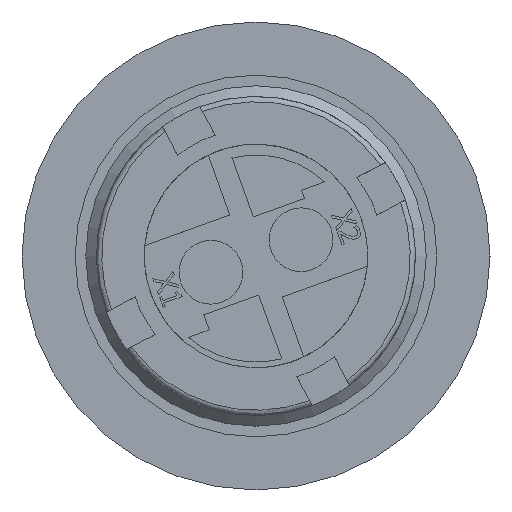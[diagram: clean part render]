
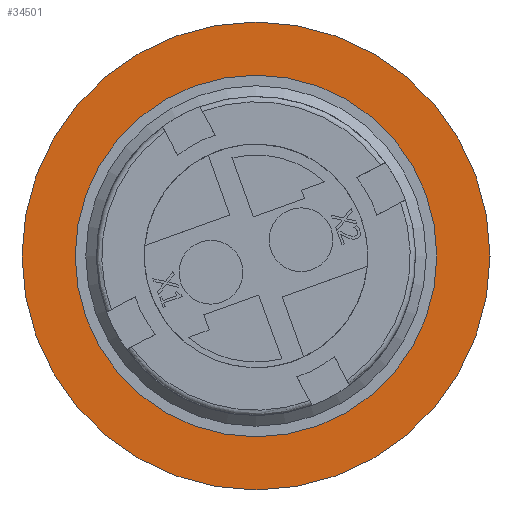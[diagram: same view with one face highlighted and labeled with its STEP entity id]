
A CAD part, front view. The second image highlights one B-rep face of the part: STEP entity #34501.
In plain terms, the highlighted planar face has unit normal (0, -1, 0).
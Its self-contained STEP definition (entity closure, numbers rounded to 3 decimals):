
#34438=CARTESIAN_POINT('',(17.,22.265,0.));
#34439=VERTEX_POINT('',#34438);
#34440=CARTESIAN_POINT('',(0.,22.265,0.));
#34441=DIRECTION('',(0.0,1.0,0.0));
#34442=DIRECTION('',(-1.0,0.0,0.0));
#34443=AXIS2_PLACEMENT_3D('',#34440,#34441,#34442);
#34444=CIRCLE('',#34443,17.);
#34445=EDGE_CURVE('',#34439,#34439,#34444,.T.);
#34466=CARTESIAN_POINT('',(22.,22.265,0.));
#34467=VERTEX_POINT('',#34466);
#34468=CARTESIAN_POINT('',(0.,22.265,0.));
#34469=DIRECTION('',(0.0,-1.0,0.0));
#34470=DIRECTION('',(-1.0,0.0,0.0));
#34471=AXIS2_PLACEMENT_3D('',#34468,#34469,#34470);
#34472=CIRCLE('',#34471,22.0);
#34473=EDGE_CURVE('',#34467,#34467,#34472,.T.);
#34490=CARTESIAN_POINT('',(0.,22.265,0.));
#34491=DIRECTION('',(0.0,-1.0,0.0));
#34492=DIRECTION('',(-1.0,0.0,0.0));
#34493=AXIS2_PLACEMENT_3D('',#34490,#34491,#34492);
#34494=PLANE('',#34493);
#34495=ORIENTED_EDGE('',*,*,#34473,.T.);
#34496=EDGE_LOOP('',(#34495));
#34497=FACE_OUTER_BOUND('',#34496,.T.);
#34498=ORIENTED_EDGE('',*,*,#34445,.T.);
#34499=EDGE_LOOP('',(#34498));
#34500=FACE_BOUND('',#34499,.T.);
#34501=ADVANCED_FACE('',(#34497,#34500),#34494,.T.);
